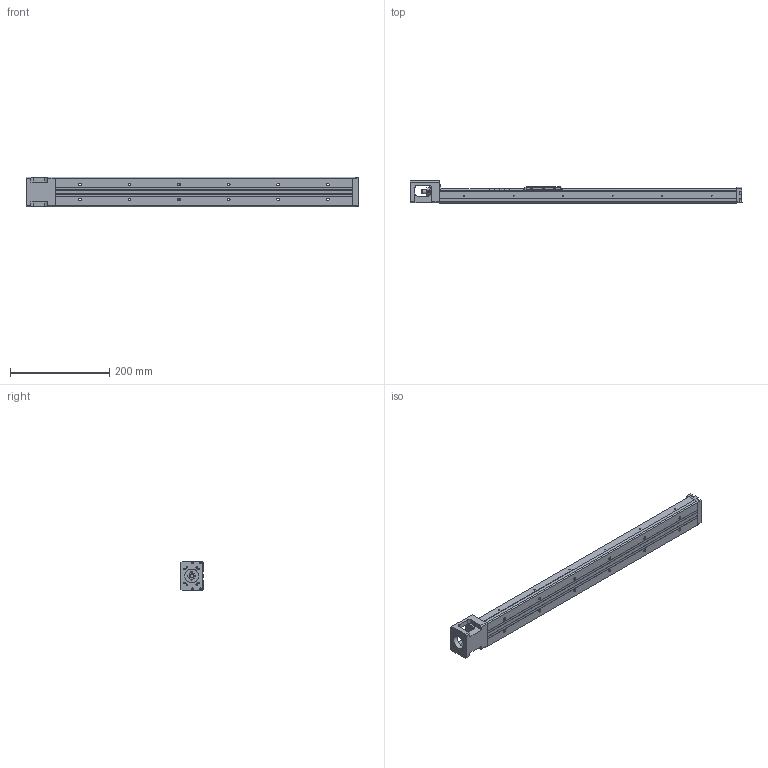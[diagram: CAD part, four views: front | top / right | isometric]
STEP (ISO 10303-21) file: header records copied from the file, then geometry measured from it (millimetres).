
FILE_DESCRIPTION(/* description */ (''),/* implementation_level */ '2;1');
FILE_NAME(/* name */ 'KP33N-600C02-D.stp',/* time_stamp */ '2020-07-01T11:47:51+08:00',/* author */ (''),/* organization */ (''),/* preprocessor_version */ 'ST-DEVELOPER v14',/* originating_system */ 'SIEMENS PLM Software NX 8.0',/* authorisation */ '');
FILE_SCHEMA (('AUTOMOTIVE_DESIGN { 1 0 10303 214 3 1 1 1 }'));
Length unit declared in the file: millimetre
Products named in the file (1): model1
Bounding box: 670 x 44.45 x 60 mm (x, y, z)
Volume: 692235.2 mm3; surface area: 194132.8 mm2
Topology: 5 solids, 14 shells, 682 faces, 1727 edges, 1139 vertices
Faces by surface type: plane 394, cylinder 205, bspline 31, cone 22, extrusion 21, torus 7, sphere 2
Full cylindrical faces by diameter (mm): 1.6 x6, 1.65 x4, 2.15 x6, 2.42 x4, 2.45 x2, 2.5 x16, 3 x3, 3.2 x4, 3.3 x4, 3.4 x3, 3.5 x10, 3.969 x1, 4 x6, 4.001 x1, 4.135 x4, 5.5 x12, 6 x4, 7.6 x1, 8 x5, 9.5 x12, 10.72 x3, 11.8 x2, 12 x6, 12.8 x1, 13 x2, 14 x1, 16 x4, 21.5 x1, 28 x1
Entity records: 30930 total; most frequent: CARTESIAN_POINT 15427, DIRECTION 3117, ORIENTED_EDGE 2984, EDGE_CURVE 1492, AXIS2_PLACEMENT_3D 1124, VERTEX_POINT 1062, EDGE_LOOP 978, VECTOR 869
